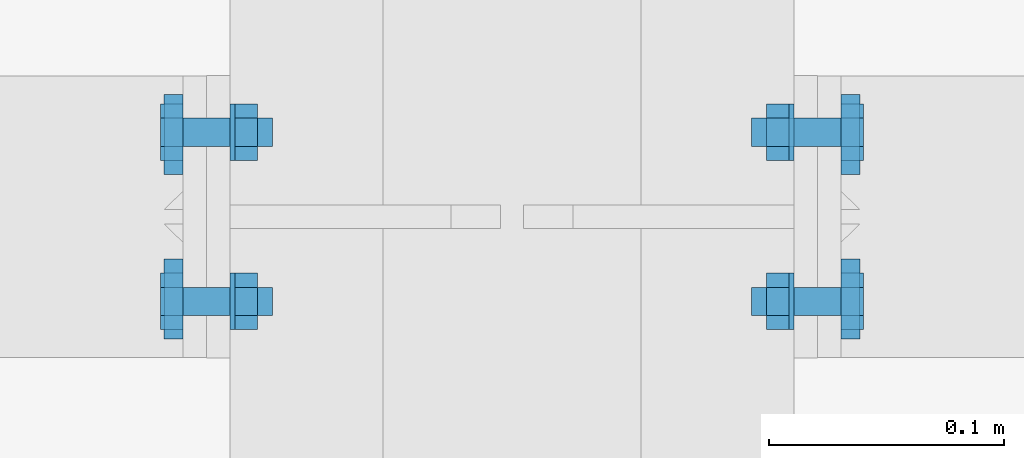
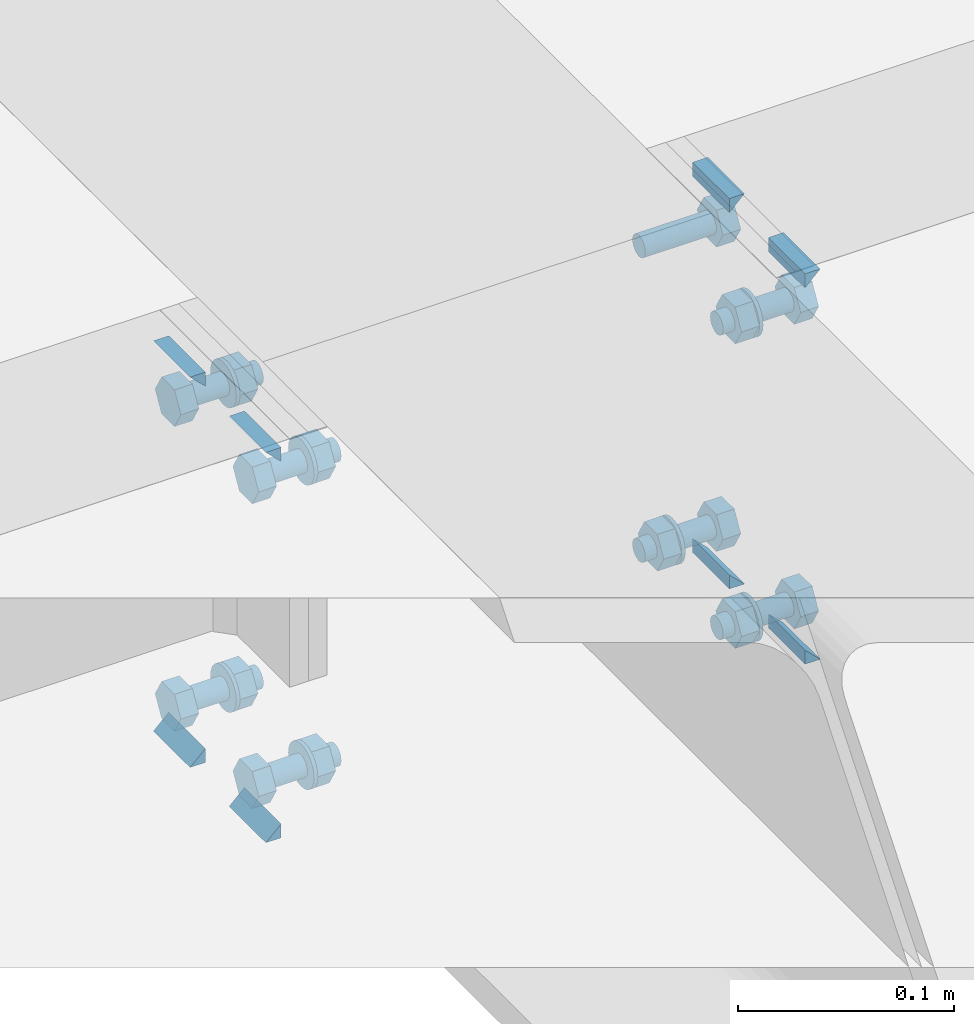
# One storey, part 34 of 66: 30 mechanical fasteners, 16 fasteners.
"""IFC4 building model written with IfcOpenShell, lengths in metres."""

from ifc_helpers import new_model, si_unit, frame, origin_with_axes, place, context, project, spatial, polyline, outline, extrude, type_object, element, save


model = new_model("IFC4")

# Units and contexts
model_context = context("Model", 3, precision=1e-05, world=origin_with_axes())
ifc_project = project(units=[si_unit("LENGTHUNIT", "METRE"), si_unit("AREAUNIT", "SQUARE_METRE"), si_unit("VOLUMEUNIT", "CUBIC_METRE"), si_unit("MASSUNIT", "GRAM", prefix="KILO"), si_unit("TIMEUNIT", "SECOND"), si_unit("PLANEANGLEUNIT", "RADIAN"), si_unit("SOLIDANGLEUNIT", "STERADIAN"), si_unit("THERMODYNAMICTEMPERATUREUNIT", "DEGREE_CELSIUS")], contexts=[model_context])

# Site, building, storey
placement_1 = place(None, origin_with_axes())
site = spatial("IfcSite", under=ifc_project, at=placement_1, Name="Italia", CompositionType="ELEMENT")
building = spatial("IfcBuilding", under=site, at=placement_1, Name="Uffici", CompositionType="ELEMENT")
storey_placement = place(None, frame((0.0, 0.0, 3.299999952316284), z_axis=(0.0, 0.0, 1.0), x_axis=(1.0, 0.0, 0.0)))
storey = spatial("IfcBuildingStorey", under=building, at=storey_placement, Name="Storey 1", CompositionType="ELEMENT", Elevation=3.299999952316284)

# Fasteners
fastener_type_1 = type_object("IfcFastenerType", Name="Collegamento -012_-011", PredefinedType="WELD")
placement_2 = place(placement_1, origin_with_axes())
fastener_1_placement = place(placement_2, origin_with_axes())
element("IfcFastener", 1, at=fastener_1_placement, inside=storey, type_object=fastener_type_1, Name="Collegamento -012_-011", context=model_context, shape_type="SweptSolid", body=[
    extrude(outline(polyline([(0.0, 0.0), (-0.00817347, 0.00792813), (0.0, 0.00792813), (0.0, 0.0)])), frame((3.06505, 3.57528, 3.28232), z_axis=(0.0, -1.0, 0.0), x_axis=(1.0, 0.0, 0.0)), (0.0, 0.0, 1.0), 0.0339999),
])
fastener_type_2 = type_object("IfcFastenerType", Name="Collegamento -012_-011", PredefinedType="WELD")
fastener_2_placement = place(placement_2, origin_with_axes())
element("IfcFastener", 2, at=fastener_2_placement, inside=storey, type_object=fastener_type_2, Name="Collegamento -012_-011", context=model_context, shape_type="SweptSolid", body=[
    extrude(outline(polyline([(0.0, 0.0), (0.00817347, -0.00792813), (0.0, -0.00792813), (0.0, 0.0)])), frame((3.06505, 3.54128, 3.07768), z_axis=(0.0, 1.0, 0.0), x_axis=(-1.0, 0.0, 0.0)), (0.0, 0.0, 1.0), 0.0339999),
])
fastener_type_3 = type_object("IfcFastenerType", Name="Collegamento -012_-011", PredefinedType="WELD")
fastener_3_placement = place(placement_2, origin_with_axes())
element("IfcFastener", 3, at=fastener_3_placement, inside=storey, type_object=fastener_type_3, Name="Collegamento -012_-011", context=model_context, shape_type="SweptSolid", body=[
    extrude(outline(polyline([(0.0, 0.0), (0.00817347, -0.00792813), (0.0, -0.00792813), (0.0, 0.0)])), frame((3.06505, 3.61138, 3.07768), z_axis=(0.0, 1.0, 0.0), x_axis=(-1.0, 0.0, 0.0)), (0.0, 0.0, 1.0), 0.0339999),
])
fastener_type_4 = type_object("IfcFastenerType", Name="Collegamento -012_-011", PredefinedType="WELD")
fastener_4_placement = place(placement_2, origin_with_axes())
element("IfcFastener", 4, at=fastener_4_placement, inside=storey, type_object=fastener_type_4, Name="Collegamento -012_-011", context=model_context, shape_type="SweptSolid", body=[
    extrude(outline(polyline([(0.0, 0.0), (-0.00817347, 0.00792813), (0.0, 0.00792813), (0.0, 0.0)])), frame((3.06505, 3.64538, 3.28232), z_axis=(0.0, -1.0, 0.0), x_axis=(1.0, 0.0, 0.0)), (0.0, 0.0, 1.0), 0.0339999),
])
fastener_type_5 = type_object("IfcFastenerType", Name="Collegamento -012_-011", PredefinedType="WELD")
fastener_5_placement = place(placement_2, origin_with_axes())
element("IfcFastener", 5, at=fastener_5_placement, inside=storey, type_object=fastener_type_5, Name="Collegamento -012_-011", context=model_context, shape_type="SweptSolid", body=[
    extrude(outline(polyline([(0.0, 0.0), (-0.00817347, 0.00792813), (0.0, 0.00792813), (0.0, 0.0)])), frame((3.06505, 3.57528, 3.28232), z_axis=(0.0, -1.0, 0.0), x_axis=(1.0, 0.0, 0.0)), (0.0, 0.0, 1.0), 0.0339999),
])
fastener_type_6 = type_object("IfcFastenerType", Name="Collegamento -012_-011", PredefinedType="WELD")
fastener_6_placement = place(placement_2, origin_with_axes())
element("IfcFastener", 6, at=fastener_6_placement, inside=storey, type_object=fastener_type_6, Name="Collegamento -012_-011", context=model_context, shape_type="SweptSolid", body=[
    extrude(outline(polyline([(0.0, 0.0), (0.00817347, -0.00792813), (0.0, -0.00792813), (0.0, 0.0)])), frame((3.06505, 3.54128, 3.07768), z_axis=(0.0, 1.0, 0.0), x_axis=(-1.0, 0.0, 0.0)), (0.0, 0.0, 1.0), 0.0339999),
])
fastener_type_7 = type_object("IfcFastenerType", Name="Collegamento -012_-011", PredefinedType="WELD")
fastener_7_placement = place(placement_2, origin_with_axes())
element("IfcFastener", 7, at=fastener_7_placement, inside=storey, type_object=fastener_type_7, Name="Collegamento -012_-011", context=model_context, shape_type="SweptSolid", body=[
    extrude(outline(polyline([(0.0, 0.0), (0.00817347, -0.00792813), (0.0, -0.00792813), (0.0, 0.0)])), frame((3.06505, 3.61138, 3.07768), z_axis=(0.0, 1.0, 0.0), x_axis=(-1.0, 0.0, 0.0)), (0.0, 0.0, 1.0), 0.0339999),
])
fastener_type_8 = type_object("IfcFastenerType", Name="Collegamento -012_-011", PredefinedType="WELD")
fastener_8_placement = place(placement_2, origin_with_axes())
element("IfcFastener", 8, at=fastener_8_placement, inside=storey, type_object=fastener_type_8, Name="Collegamento -012_-011", context=model_context, shape_type="SweptSolid", body=[
    extrude(outline(polyline([(0.0, 0.0), (-0.00817347, 0.00792813), (0.0, 0.00792813), (0.0, 0.0)])), frame((3.06505, 3.64538, 3.28232), z_axis=(0.0, -1.0, 0.0), x_axis=(1.0, 0.0, 0.0)), (0.0, 0.0, 1.0), 0.0339999),
])

# Mechanical fasteners
mechanical_fastener_type_1 = type_object("IfcMechanicalFastenerType", Name="Collegamento -012_-011", PredefinedType="BOLT")
mechanical_fastener_1_placement = place(placement_2, origin_with_axes())
element("IfcMechanicalFastener", 9, at=mechanical_fastener_1_placement, inside=storey, type_object=mechanical_fastener_type_1, Name="Collegamento -012_-011", NominalDiameter=0.0119999, context=model_context, shape_type="SweptSolid", body=[
    extrude(outline(polyline([(0.0, 0.0), (-0.0120001, 0.0), (-0.0180001, 0.0103924), (-0.0120001, 0.0207846), (0.0, 0.0207846), (0.00600004, 0.0103924), (0.0, 0.0)])), frame((3.065, 3.62333, 3.08361), z_axis=(-1.0, 0.0, 0.0), x_axis=(0.0, -1.0, 0.0)), (0.0, 0.0, 1.0), 0.00959992),
])
mechanical_fastener_type_2 = type_object("IfcMechanicalFastenerType", Name="Collegamento -012_-011", PredefinedType="BOLT")
mechanical_fastener_2_placement = place(placement_2, origin_with_axes())
element("IfcMechanicalFastener", 10, at=mechanical_fastener_2_placement, inside=storey, type_object=mechanical_fastener_type_2, Name="Collegamento -012_-011", NominalDiameter=0.012, context=model_context, shape_type="SweptSolid", body=[
    extrude(outline(polyline([(0.0, 0.0), (-0.000204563, -0.00155282), (-0.000803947, -0.00300002), (-0.00175738, -0.00424266), (-0.00300002, -0.00519609), (-0.00444722, -0.00579548), (-0.00600004, -0.00600004), (-0.00755286, -0.00579548), (-0.00900006, -0.00519609), (-0.0102427, -0.00424266), (-0.0111961, -0.00300002), (-0.0117955, -0.00155282), (-0.0120001, 0.0), (-0.0117955, 0.00155282), (-0.0111961, 0.00300002), (-0.0102427, 0.00424266), (-0.00900006, 0.00519609), (-0.00755286, 0.00579548), (-0.00600004, 0.00600004), (-0.00444722, 0.00579548), (-0.00300002, 0.00519609), (-0.00175738, 0.00424266), (-0.000803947, 0.00300002), (-0.000204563, 0.00155282), (0.0, 0.0)])), frame((3.103, 3.62333, 3.094), z_axis=(-1.0, 0.0, 0.0), x_axis=(0.0, -1.0, 0.0)), (0.0, 0.0, 1.0), 0.0379999),
])
mechanical_fastener_type_3 = type_object("IfcMechanicalFastenerType", Name="Collegamento -012_-011", PredefinedType="BOLT")
mechanical_fastener_3_placement = place(placement_2, origin_with_axes())
element("IfcMechanicalFastener", 11, at=mechanical_fastener_3_placement, inside=storey, type_object=mechanical_fastener_type_3, Name="Collegamento -012_-011", NominalDiameter=0.0119999, context=model_context, shape_type="SweptSolid", body=[
    extrude(outline(polyline([(0.0, 0.0), (-0.0120001, 0.0), (-0.0180001, 0.0103924), (-0.0120001, 0.0207846), (0.0, 0.0207846), (0.00600004, 0.0103924), (0.0, 0.0)])), frame((3.0966, 3.62333, 3.08361), z_axis=(-1.0, 0.0, 0.0), x_axis=(0.0, -1.0, 0.0)), (0.0, 0.0, 1.0), 0.00959992),
])
mechanical_fastener_type_4 = type_object("IfcMechanicalFastenerType", Name="Collegamento -012_-011", PredefinedType="BOLT")
mechanical_fastener_4_placement = place(placement_2, origin_with_axes())
element("IfcMechanicalFastener", 12, at=mechanical_fastener_4_placement, inside=storey, type_object=mechanical_fastener_type_4, Name="Collegamento -012_-011", NominalDiameter=0.024, context=model_context, shape_type="SweptSolid", body=[
    extrude(outline(polyline([(0.0, 0.0), (-0.000408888, -0.00310588), (-0.00160789, -0.00600004), (-0.00351477, -0.00848532), (-0.00600004, -0.0103922), (-0.00889421, -0.0115912), (-0.0120001, -0.0120001), (-0.015106, -0.0115912), (-0.0180001, -0.0103922), (-0.0204854, -0.00848532), (-0.0223923, -0.00600004), (-0.0235913, -0.00310588), (-0.0240002, 0.0), (-0.0235913, 0.00310588), (-0.0223923, 0.00600004), (-0.0204854, 0.00848532), (-0.0180001, 0.0103922), (-0.015106, 0.0115912), (-0.0120001, 0.0120001), (-0.00889421, 0.0115912), (-0.00600004, 0.0103922), (-0.00351477, 0.00848532), (-0.00160789, 0.00600004), (-0.000408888, 0.00310588), (0.0, 0.0)])), frame((3.087, 3.61733, 3.094), z_axis=(-1.0, 0.0, 0.0), x_axis=(0.0, -1.0, 0.0)), (0.0, 0.0, 1.0), 0.00200009),
])
mechanical_fastener_type_5 = type_object("IfcMechanicalFastenerType", Name="Collegamento -012_-011", PredefinedType="BOLT")
mechanical_fastener_5_placement = place(placement_2, origin_with_axes())
element("IfcMechanicalFastener", 13, at=mechanical_fastener_5_placement, inside=storey, type_object=mechanical_fastener_type_5, Name="Collegamento -012_-011", NominalDiameter=0.0119999, context=model_context, shape_type="SweptSolid", body=[
    extrude(outline(polyline([(0.0, 0.0), (-0.0120001, 0.0), (-0.0180001, 0.0103924), (-0.0120001, 0.0207846), (0.0, 0.0207846), (0.00600004, 0.0103924), (0.0, 0.0)])), frame((3.065, 3.55133, 3.08361), z_axis=(-1.0, 0.0, 0.0), x_axis=(0.0, -1.0, 0.0)), (0.0, 0.0, 1.0), 0.00959992),
])
mechanical_fastener_type_6 = type_object("IfcMechanicalFastenerType", Name="Collegamento -012_-011", PredefinedType="BOLT")
mechanical_fastener_6_placement = place(placement_2, origin_with_axes())
element("IfcMechanicalFastener", 14, at=mechanical_fastener_6_placement, inside=storey, type_object=mechanical_fastener_type_6, Name="Collegamento -012_-011", NominalDiameter=0.012, context=model_context, shape_type="SweptSolid", body=[
    extrude(outline(polyline([(0.0, 0.0), (-0.000204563, -0.00155282), (-0.000803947, -0.00300002), (-0.00175738, -0.00424266), (-0.00300002, -0.00519609), (-0.00444722, -0.00579548), (-0.00600004, -0.00600004), (-0.00755286, -0.00579548), (-0.00900006, -0.00519609), (-0.0102427, -0.00424266), (-0.0111961, -0.00300002), (-0.0117955, -0.00155282), (-0.0120001, 0.0), (-0.0117955, 0.00155282), (-0.0111961, 0.00300002), (-0.0102427, 0.00424266), (-0.00900006, 0.00519609), (-0.00755286, 0.00579548), (-0.00600004, 0.00600004), (-0.00444722, 0.00579548), (-0.00300002, 0.00519609), (-0.00175738, 0.00424266), (-0.000803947, 0.00300002), (-0.000204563, 0.00155282), (0.0, 0.0)])), frame((3.103, 3.55133, 3.094), z_axis=(-1.0, 0.0, 0.0), x_axis=(0.0, -1.0, 0.0)), (0.0, 0.0, 1.0), 0.0379999),
])
mechanical_fastener_type_7 = type_object("IfcMechanicalFastenerType", Name="Collegamento -012_-011", PredefinedType="BOLT")
mechanical_fastener_7_placement = place(placement_2, origin_with_axes())
element("IfcMechanicalFastener", 15, at=mechanical_fastener_7_placement, inside=storey, type_object=mechanical_fastener_type_7, Name="Collegamento -012_-011", NominalDiameter=0.0119999, context=model_context, shape_type="SweptSolid", body=[
    extrude(outline(polyline([(0.0, 0.0), (-0.0120001, 0.0), (-0.0180001, 0.0103924), (-0.0120001, 0.0207846), (0.0, 0.0207846), (0.00600004, 0.0103924), (0.0, 0.0)])), frame((3.0966, 3.55133, 3.08361), z_axis=(-1.0, 0.0, 0.0), x_axis=(0.0, -1.0, 0.0)), (0.0, 0.0, 1.0), 0.00959992),
])
mechanical_fastener_type_8 = type_object("IfcMechanicalFastenerType", Name="Collegamento -012_-011", PredefinedType="BOLT")
mechanical_fastener_8_placement = place(placement_2, origin_with_axes())
element("IfcMechanicalFastener", 16, at=mechanical_fastener_8_placement, inside=storey, type_object=mechanical_fastener_type_8, Name="Collegamento -012_-011", NominalDiameter=0.024, context=model_context, shape_type="SweptSolid", body=[
    extrude(outline(polyline([(0.0, 0.0), (-0.000408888, -0.00310588), (-0.00160789, -0.00600004), (-0.00351477, -0.00848532), (-0.00600004, -0.0103922), (-0.00889421, -0.0115912), (-0.0120001, -0.0120001), (-0.015106, -0.0115912), (-0.0180001, -0.0103922), (-0.0204854, -0.00848532), (-0.0223923, -0.00600004), (-0.0235913, -0.00310588), (-0.0240002, 0.0), (-0.0235913, 0.00310588), (-0.0223923, 0.00600004), (-0.0204854, 0.00848532), (-0.0180001, 0.0103922), (-0.015106, 0.0115912), (-0.0120001, 0.0120001), (-0.00889421, 0.0115912), (-0.00600004, 0.0103922), (-0.00351477, 0.00848532), (-0.00160789, 0.00600004), (-0.000408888, 0.00310588), (0.0, 0.0)])), frame((3.087, 3.54533, 3.094), z_axis=(-1.0, 0.0, 0.0), x_axis=(0.0, -1.0, 0.0)), (0.0, 0.0, 1.0), 0.00200009),
])
mechanical_fastener_type_9 = type_object("IfcMechanicalFastenerType", Name="Collegamento -012_-011", PredefinedType="BOLT")
mechanical_fastener_9_placement = place(placement_2, origin_with_axes())
element("IfcMechanicalFastener", 17, at=mechanical_fastener_9_placement, inside=storey, type_object=mechanical_fastener_type_9, Name="Collegamento -012_-011", NominalDiameter=0.0119999, context=model_context, shape_type="SweptSolid", body=[
    extrude(outline(polyline([(0.0, 0.0), (-0.0120001, 0.0), (-0.0180001, 0.0103922), (-0.0120001, 0.0207846), (0.0, 0.0207846), (0.00600004, 0.0103922), (0.0, 0.0)])), frame((3.065, 3.62333, 3.25561), z_axis=(-1.0, 0.0, 0.0), x_axis=(0.0, -1.0, 0.0)), (0.0, 0.0, 1.0), 0.00959992),
])
mechanical_fastener_type_10 = type_object("IfcMechanicalFastenerType", Name="Collegamento -012_-011", PredefinedType="BOLT")
mechanical_fastener_10_placement = place(placement_2, origin_with_axes())
element("IfcMechanicalFastener", 18, at=mechanical_fastener_10_placement, inside=storey, type_object=mechanical_fastener_type_10, Name="Collegamento -012_-011", NominalDiameter=0.012, context=model_context, shape_type="SweptSolid", body=[
    extrude(outline(polyline([(0.0, 0.0), (-0.000204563, -0.00155282), (-0.000803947, -0.00300002), (-0.00175738, -0.00424266), (-0.00300002, -0.00519609), (-0.00444722, -0.00579548), (-0.00600004, -0.00600004), (-0.00755286, -0.00579548), (-0.00900006, -0.00519609), (-0.0102427, -0.00424266), (-0.0111961, -0.00300002), (-0.0117955, -0.00155282), (-0.0120001, 0.0), (-0.0117955, 0.00155282), (-0.0111961, 0.00300002), (-0.0102427, 0.00424266), (-0.00900006, 0.00519609), (-0.00755286, 0.00579548), (-0.00600004, 0.00600004), (-0.00444722, 0.00579548), (-0.00300002, 0.00519609), (-0.00175738, 0.00424266), (-0.000803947, 0.00300002), (-0.000204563, 0.00155282), (0.0, 0.0)])), frame((3.103, 3.62333, 3.266), z_axis=(-1.0, 0.0, 0.0), x_axis=(0.0, -1.0, 0.0)), (0.0, 0.0, 1.0), 0.0379999),
])
mechanical_fastener_type_11 = type_object("IfcMechanicalFastenerType", Name="Collegamento -012_-011", PredefinedType="BOLT")
mechanical_fastener_11_placement = place(placement_2, origin_with_axes())
element("IfcMechanicalFastener", 19, at=mechanical_fastener_11_placement, inside=storey, type_object=mechanical_fastener_type_11, Name="Collegamento -012_-011", NominalDiameter=0.0119999, context=model_context, shape_type="SweptSolid", body=[
    extrude(outline(polyline([(0.0, 0.0), (-0.0120001, 0.0), (-0.0180001, 0.0103922), (-0.0120001, 0.0207846), (0.0, 0.0207846), (0.00600004, 0.0103922), (0.0, 0.0)])), frame((3.0966, 3.62333, 3.25561), z_axis=(-1.0, 0.0, 0.0), x_axis=(0.0, -1.0, 0.0)), (0.0, 0.0, 1.0), 0.00959992),
])
mechanical_fastener_type_12 = type_object("IfcMechanicalFastenerType", Name="Collegamento -012_-011", PredefinedType="BOLT")
mechanical_fastener_12_placement = place(placement_2, origin_with_axes())
element("IfcMechanicalFastener", 20, at=mechanical_fastener_12_placement, inside=storey, type_object=mechanical_fastener_type_12, Name="Collegamento -012_-011", NominalDiameter=0.024, context=model_context, shape_type="SweptSolid", body=[
    extrude(outline(polyline([(0.0, 0.0), (-0.000408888, -0.00310588), (-0.00160789, -0.00600004), (-0.00351477, -0.00848532), (-0.00600004, -0.0103922), (-0.00889421, -0.0115912), (-0.0120001, -0.0120001), (-0.015106, -0.0115912), (-0.0180001, -0.0103922), (-0.0204854, -0.00848532), (-0.0223923, -0.00600004), (-0.0235913, -0.00310588), (-0.0240002, 0.0), (-0.0235913, 0.00310588), (-0.0223923, 0.00600004), (-0.0204854, 0.00848532), (-0.0180001, 0.0103922), (-0.015106, 0.0115912), (-0.0120001, 0.0120001), (-0.00889421, 0.0115912), (-0.00600004, 0.0103922), (-0.00351477, 0.00848532), (-0.00160789, 0.00600004), (-0.000408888, 0.00310588), (0.0, 0.0)])), frame((3.087, 3.61733, 3.266), z_axis=(-1.0, 0.0, 0.0), x_axis=(0.0, -1.0, 0.0)), (0.0, 0.0, 1.0), 0.00200009),
])
mechanical_fastener_type_13 = type_object("IfcMechanicalFastenerType", Name="Collegamento -012_-011", PredefinedType="BOLT")
mechanical_fastener_13_placement = place(placement_2, origin_with_axes())
element("IfcMechanicalFastener", 21, at=mechanical_fastener_13_placement, inside=storey, type_object=mechanical_fastener_type_13, Name="Collegamento -012_-011", NominalDiameter=0.0119999, context=model_context, shape_type="SweptSolid", body=[
    extrude(outline(polyline([(0.0, 0.0), (-0.0120001, 0.0), (-0.0180001, 0.0103922), (-0.0120001, 0.0207846), (0.0, 0.0207846), (0.00600004, 0.0103922), (0.0, 0.0)])), frame((3.065, 3.55133, 3.25561), z_axis=(-1.0, 0.0, 0.0), x_axis=(0.0, -1.0, 0.0)), (0.0, 0.0, 1.0), 0.00959992),
])
mechanical_fastener_type_14 = type_object("IfcMechanicalFastenerType", Name="Collegamento -012_-011", PredefinedType="BOLT")
mechanical_fastener_14_placement = place(placement_2, origin_with_axes())
element("IfcMechanicalFastener", 22, at=mechanical_fastener_14_placement, inside=storey, type_object=mechanical_fastener_type_14, Name="Collegamento -012_-011", NominalDiameter=0.012, context=model_context, shape_type="SweptSolid", body=[
    extrude(outline(polyline([(0.0, 0.0), (-0.000204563, -0.00155282), (-0.000803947, -0.00300002), (-0.00175738, -0.00424266), (-0.00300002, -0.00519609), (-0.00444722, -0.00579548), (-0.00600004, -0.00600004), (-0.00755286, -0.00579548), (-0.00900006, -0.00519609), (-0.0102427, -0.00424266), (-0.0111961, -0.00300002), (-0.0117955, -0.00155282), (-0.0120001, 0.0), (-0.0117955, 0.00155282), (-0.0111961, 0.00300002), (-0.0102427, 0.00424266), (-0.00900006, 0.00519609), (-0.00755286, 0.00579548), (-0.00600004, 0.00600004), (-0.00444722, 0.00579548), (-0.00300002, 0.00519609), (-0.00175738, 0.00424266), (-0.000803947, 0.00300002), (-0.000204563, 0.00155282), (0.0, 0.0)])), frame((3.103, 3.55133, 3.266), z_axis=(-1.0, 0.0, 0.0), x_axis=(0.0, -1.0, 0.0)), (0.0, 0.0, 1.0), 0.0379999),
])
mechanical_fastener_type_15 = type_object("IfcMechanicalFastenerType", Name="Collegamento -012_-011", PredefinedType="BOLT")
mechanical_fastener_15_placement = place(placement_2, origin_with_axes())
element("IfcMechanicalFastener", 23, at=mechanical_fastener_15_placement, inside=storey, type_object=mechanical_fastener_type_15, Name="Collegamento -012_-011", NominalDiameter=0.0119999, context=model_context, shape_type="SweptSolid", body=[
    extrude(outline(polyline([(0.0, 0.0), (-0.0120001, 0.0), (-0.0180001, 0.0103922), (-0.0120001, 0.0207846), (0.0, 0.0207846), (0.00600004, 0.0103922), (0.0, 0.0)])), frame((3.0966, 3.55133, 3.25561), z_axis=(-1.0, 0.0, 0.0), x_axis=(0.0, -1.0, 0.0)), (0.0, 0.0, 1.0), 0.00959992),
])
mechanical_fastener_type_16 = type_object("IfcMechanicalFastenerType", Name="Collegamento -012_-011", PredefinedType="BOLT")
mechanical_fastener_16_placement = place(placement_2, origin_with_axes())
element("IfcMechanicalFastener", 24, at=mechanical_fastener_16_placement, inside=storey, type_object=mechanical_fastener_type_16, Name="Collegamento -012_-011", NominalDiameter=0.024, context=model_context, shape_type="SweptSolid", body=[
    extrude(outline(polyline([(0.0, 0.0), (-0.000408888, -0.00310588), (-0.00160789, -0.00600004), (-0.00351477, -0.00848532), (-0.00600004, -0.0103922), (-0.00889421, -0.0115912), (-0.0120001, -0.0120001), (-0.015106, -0.0115912), (-0.0180001, -0.0103922), (-0.0204854, -0.00848532), (-0.0223923, -0.00600004), (-0.0235913, -0.00310588), (-0.0240002, 0.0), (-0.0235913, 0.00310588), (-0.0223923, 0.00600004), (-0.0204854, 0.00848532), (-0.0180001, 0.0103922), (-0.015106, 0.0115912), (-0.0120001, 0.0120001), (-0.00889421, 0.0115912), (-0.00600004, 0.0103922), (-0.00351477, 0.00848532), (-0.00160789, 0.00600004), (-0.000408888, 0.00310588), (0.0, 0.0)])), frame((3.087, 3.54533, 3.266), z_axis=(-1.0, 0.0, 0.0), x_axis=(0.0, -1.0, 0.0)), (0.0, 0.0, 1.0), 0.00200009),
])

# Fasteners
fastener_type_9 = type_object("IfcFastenerType", Name="Collegamento -012_-013", PredefinedType="WELD")
fastener_9_placement = place(placement_2, origin_with_axes())
element("IfcFastener", 25, at=fastener_9_placement, inside=storey, type_object=fastener_type_9, Name="Collegamento -012_-013", context=model_context, shape_type="SweptSolid", body=[
    extrude(outline(polyline([(0.0, 0.0), (-0.00817347, 0.00792813), (0.0, 0.00792813), (0.0, 0.0)])), frame((3.34495, 3.54128, 3.28232), z_axis=(0.0, 1.0, 0.0), x_axis=(-1.0, 0.0, 0.0)), (0.0, 0.0, 1.0), 0.0339999),
])
fastener_type_10 = type_object("IfcFastenerType", Name="Collegamento -012_-013", PredefinedType="WELD")
fastener_10_placement = place(placement_2, origin_with_axes())
element("IfcFastener", 26, at=fastener_10_placement, inside=storey, type_object=fastener_type_10, Name="Collegamento -012_-013", context=model_context, shape_type="SweptSolid", body=[
    extrude(outline(polyline([(0.0, 0.0), (0.00817347, -0.00792813), (0.0, -0.00792813), (0.0, 0.0)])), frame((3.34495, 3.57528, 3.07768), z_axis=(0.0, -1.0, 0.0), x_axis=(1.0, 0.0, 0.0)), (0.0, 0.0, 1.0), 0.0339999),
])
fastener_type_11 = type_object("IfcFastenerType", Name="Collegamento -012_-013", PredefinedType="WELD")
fastener_11_placement = place(placement_2, origin_with_axes())
element("IfcFastener", 27, at=fastener_11_placement, inside=storey, type_object=fastener_type_11, Name="Collegamento -012_-013", context=model_context, shape_type="SweptSolid", body=[
    extrude(outline(polyline([(0.0, 0.0), (0.00817347, -0.00792813), (0.0, -0.00792813), (0.0, 0.0)])), frame((3.34495, 3.64538, 3.07768), z_axis=(0.0, -1.0, 0.0), x_axis=(1.0, 0.0, 0.0)), (0.0, 0.0, 1.0), 0.0339999),
])
fastener_type_12 = type_object("IfcFastenerType", Name="Collegamento -012_-013", PredefinedType="WELD")
fastener_12_placement = place(placement_2, origin_with_axes())
element("IfcFastener", 28, at=fastener_12_placement, inside=storey, type_object=fastener_type_12, Name="Collegamento -012_-013", context=model_context, shape_type="SweptSolid", body=[
    extrude(outline(polyline([(0.0, 0.0), (-0.00817347, 0.00792813), (0.0, 0.00792813), (0.0, 0.0)])), frame((3.34495, 3.61138, 3.28232), z_axis=(0.0, 1.0, 0.0), x_axis=(-1.0, 0.0, 0.0)), (0.0, 0.0, 1.0), 0.0339999),
])
fastener_type_13 = type_object("IfcFastenerType", Name="Collegamento -012_-013", PredefinedType="WELD")
fastener_13_placement = place(placement_2, origin_with_axes())
element("IfcFastener", 29, at=fastener_13_placement, inside=storey, type_object=fastener_type_13, Name="Collegamento -012_-013", context=model_context, shape_type="SweptSolid", body=[
    extrude(outline(polyline([(0.0, 0.0), (-0.00817347, 0.00792813), (0.0, 0.00792813), (0.0, 0.0)])), frame((3.34495, 3.54128, 3.28232), z_axis=(0.0, 1.0, 0.0), x_axis=(-1.0, 0.0, 0.0)), (0.0, 0.0, 1.0), 0.0339999),
])
fastener_type_14 = type_object("IfcFastenerType", Name="Collegamento -012_-013", PredefinedType="WELD")
fastener_14_placement = place(placement_2, origin_with_axes())
element("IfcFastener", 30, at=fastener_14_placement, inside=storey, type_object=fastener_type_14, Name="Collegamento -012_-013", context=model_context, shape_type="SweptSolid", body=[
    extrude(outline(polyline([(0.0, 0.0), (0.00817347, -0.00792813), (0.0, -0.00792813), (0.0, 0.0)])), frame((3.34495, 3.57528, 3.07768), z_axis=(0.0, -1.0, 0.0), x_axis=(1.0, 0.0, 0.0)), (0.0, 0.0, 1.0), 0.0339999),
])
fastener_type_15 = type_object("IfcFastenerType", Name="Collegamento -012_-013", PredefinedType="WELD")
fastener_15_placement = place(placement_2, origin_with_axes())
element("IfcFastener", 31, at=fastener_15_placement, inside=storey, type_object=fastener_type_15, Name="Collegamento -012_-013", context=model_context, shape_type="SweptSolid", body=[
    extrude(outline(polyline([(0.0, 0.0), (0.00817347, -0.00792813), (0.0, -0.00792813), (0.0, 0.0)])), frame((3.34495, 3.64538, 3.07768), z_axis=(0.0, -1.0, 0.0), x_axis=(1.0, 0.0, 0.0)), (0.0, 0.0, 1.0), 0.0339999),
])
fastener_type_16 = type_object("IfcFastenerType", Name="Collegamento -012_-013", PredefinedType="WELD")
fastener_16_placement = place(placement_2, origin_with_axes())
element("IfcFastener", 32, at=fastener_16_placement, inside=storey, type_object=fastener_type_16, Name="Collegamento -012_-013", context=model_context, shape_type="SweptSolid", body=[
    extrude(outline(polyline([(0.0, 0.0), (-0.00817347, 0.00792813), (0.0, 0.00792813), (0.0, 0.0)])), frame((3.34495, 3.61138, 3.28232), z_axis=(0.0, 1.0, 0.0), x_axis=(-1.0, 0.0, 0.0)), (0.0, 0.0, 1.0), 0.0339999),
])

# Mechanical fasteners
mechanical_fastener_type_17 = type_object("IfcMechanicalFastenerType", Name="Collegamento -012_-013", PredefinedType="BOLT")
mechanical_fastener_17_placement = place(placement_2, origin_with_axes())
element("IfcMechanicalFastener", 33, at=mechanical_fastener_17_placement, inside=storey, type_object=mechanical_fastener_type_17, Name="Collegamento -012_-013", NominalDiameter=0.0119999, context=model_context, shape_type="SweptSolid", body=[
    extrude(outline(polyline([(0.0, 0.0), (-0.0120001, 0.0), (-0.0180001, 0.0103924), (-0.0120001, 0.0207846), (0.0, 0.0207846), (0.00600004, 0.0103924), (0.0, 0.0)])), frame((3.345, 3.56333, 3.08361), z_axis=(1.0, 0.0, 0.0), x_axis=(0.0, 1.0, 0.0)), (0.0, 0.0, 1.0), 0.00959992),
])
mechanical_fastener_type_18 = type_object("IfcMechanicalFastenerType", Name="Collegamento -012_-013", PredefinedType="BOLT")
mechanical_fastener_18_placement = place(placement_2, origin_with_axes())
element("IfcMechanicalFastener", 34, at=mechanical_fastener_18_placement, inside=storey, type_object=mechanical_fastener_type_18, Name="Collegamento -012_-013", NominalDiameter=0.012, context=model_context, shape_type="SweptSolid", body=[
    extrude(outline(polyline([(0.0, 0.0), (-0.000204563, -0.00155282), (-0.000803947, -0.00300002), (-0.00175738, -0.00424266), (-0.00300002, -0.00519609), (-0.00444722, -0.00579548), (-0.00600004, -0.00600004), (-0.00755286, -0.00579548), (-0.00900006, -0.00519609), (-0.0102427, -0.00424266), (-0.0111961, -0.00300002), (-0.0117955, -0.00155282), (-0.0120001, 0.0), (-0.0117955, 0.00155282), (-0.0111961, 0.00300002), (-0.0102427, 0.00424266), (-0.00900006, 0.00519609), (-0.00755286, 0.00579548), (-0.00600004, 0.00600004), (-0.00444722, 0.00579548), (-0.00300002, 0.00519609), (-0.00175738, 0.00424266), (-0.000803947, 0.00300002), (-0.000204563, 0.00155282), (0.0, 0.0)])), frame((3.307, 3.56333, 3.094), z_axis=(1.0, 0.0, 0.0), x_axis=(0.0, 1.0, 0.0)), (0.0, 0.0, 1.0), 0.0379999),
])
mechanical_fastener_type_19 = type_object("IfcMechanicalFastenerType", Name="Collegamento -012_-013", PredefinedType="BOLT")
mechanical_fastener_19_placement = place(placement_2, origin_with_axes())
element("IfcMechanicalFastener", 35, at=mechanical_fastener_19_placement, inside=storey, type_object=mechanical_fastener_type_19, Name="Collegamento -012_-013", NominalDiameter=0.0119999, context=model_context, shape_type="SweptSolid", body=[
    extrude(outline(polyline([(0.0, 0.0), (-0.0120001, 0.0), (-0.0180001, 0.0103924), (-0.0120001, 0.0207846), (0.0, 0.0207846), (0.00600004, 0.0103924), (0.0, 0.0)])), frame((3.3134, 3.56333, 3.08361), z_axis=(1.0, 0.0, 0.0), x_axis=(0.0, 1.0, 0.0)), (0.0, 0.0, 1.0), 0.00959992),
])
mechanical_fastener_type_20 = type_object("IfcMechanicalFastenerType", Name="Collegamento -012_-013", PredefinedType="BOLT")
mechanical_fastener_20_placement = place(placement_2, origin_with_axes())
element("IfcMechanicalFastener", 36, at=mechanical_fastener_20_placement, inside=storey, type_object=mechanical_fastener_type_20, Name="Collegamento -012_-013", NominalDiameter=0.024, context=model_context, shape_type="SweptSolid", body=[
    extrude(outline(polyline([(0.0, 0.0), (-0.000408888, -0.00310588), (-0.00160789, -0.00600004), (-0.00351477, -0.00848532), (-0.00600004, -0.0103922), (-0.00889421, -0.0115912), (-0.0120001, -0.0120001), (-0.015106, -0.0115912), (-0.0180001, -0.0103922), (-0.0204854, -0.00848532), (-0.0223923, -0.00600004), (-0.0235913, -0.00310588), (-0.0240002, 0.0), (-0.0235913, 0.00310588), (-0.0223923, 0.00600004), (-0.0204854, 0.00848532), (-0.0180001, 0.0103922), (-0.015106, 0.0115912), (-0.0120001, 0.0120001), (-0.00889421, 0.0115912), (-0.00600004, 0.0103922), (-0.00351477, 0.00848532), (-0.00160789, 0.00600004), (-0.000408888, 0.00310588), (0.0, 0.0)])), frame((3.323, 3.56933, 3.094), z_axis=(1.0, 0.0, 0.0), x_axis=(0.0, 1.0, 0.0)), (0.0, 0.0, 1.0), 0.00200009),
])
mechanical_fastener_type_21 = type_object("IfcMechanicalFastenerType", Name="Collegamento -012_-013", PredefinedType="BOLT")
mechanical_fastener_21_placement = place(placement_2, origin_with_axes())
element("IfcMechanicalFastener", 37, at=mechanical_fastener_21_placement, inside=storey, type_object=mechanical_fastener_type_21, Name="Collegamento -012_-013", NominalDiameter=0.0119999, context=model_context, shape_type="SweptSolid", body=[
    extrude(outline(polyline([(0.0, 0.0), (-0.0120001, 0.0), (-0.0180001, 0.0103924), (-0.0120001, 0.0207846), (0.0, 0.0207846), (0.00600004, 0.0103924), (0.0, 0.0)])), frame((3.345, 3.63533, 3.08361), z_axis=(1.0, 0.0, 0.0), x_axis=(0.0, 1.0, 0.0)), (0.0, 0.0, 1.0), 0.00959992),
])
mechanical_fastener_type_22 = type_object("IfcMechanicalFastenerType", Name="Collegamento -012_-013", PredefinedType="BOLT")
mechanical_fastener_22_placement = place(placement_2, origin_with_axes())
element("IfcMechanicalFastener", 38, at=mechanical_fastener_22_placement, inside=storey, type_object=mechanical_fastener_type_22, Name="Collegamento -012_-013", NominalDiameter=0.012, context=model_context, shape_type="SweptSolid", body=[
    extrude(outline(polyline([(0.0, 0.0), (-0.000204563, -0.00155282), (-0.000803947, -0.00300002), (-0.00175738, -0.00424266), (-0.00300002, -0.00519609), (-0.00444722, -0.00579548), (-0.00600004, -0.00600004), (-0.00755286, -0.00579548), (-0.00900006, -0.00519609), (-0.0102427, -0.00424266), (-0.0111961, -0.00300002), (-0.0117955, -0.00155282), (-0.0120001, 0.0), (-0.0117955, 0.00155282), (-0.0111961, 0.00300002), (-0.0102427, 0.00424266), (-0.00900006, 0.00519609), (-0.00755286, 0.00579548), (-0.00600004, 0.00600004), (-0.00444722, 0.00579548), (-0.00300002, 0.00519609), (-0.00175738, 0.00424266), (-0.000803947, 0.00300002), (-0.000204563, 0.00155282), (0.0, 0.0)])), frame((3.307, 3.63533, 3.094), z_axis=(1.0, 0.0, 0.0), x_axis=(0.0, 1.0, 0.0)), (0.0, 0.0, 1.0), 0.0379999),
])
mechanical_fastener_type_23 = type_object("IfcMechanicalFastenerType", Name="Collegamento -012_-013", PredefinedType="BOLT")
mechanical_fastener_23_placement = place(placement_2, origin_with_axes())
element("IfcMechanicalFastener", 39, at=mechanical_fastener_23_placement, inside=storey, type_object=mechanical_fastener_type_23, Name="Collegamento -012_-013", NominalDiameter=0.0119999, context=model_context, shape_type="SweptSolid", body=[
    extrude(outline(polyline([(0.0, 0.0), (-0.0120001, 0.0), (-0.0180001, 0.0103924), (-0.0120001, 0.0207846), (0.0, 0.0207846), (0.00600004, 0.0103924), (0.0, 0.0)])), frame((3.3134, 3.63533, 3.08361), z_axis=(1.0, 0.0, 0.0), x_axis=(0.0, 1.0, 0.0)), (0.0, 0.0, 1.0), 0.00959992),
])
mechanical_fastener_type_24 = type_object("IfcMechanicalFastenerType", Name="Collegamento -012_-013", PredefinedType="BOLT")
mechanical_fastener_24_placement = place(placement_2, origin_with_axes())
element("IfcMechanicalFastener", 40, at=mechanical_fastener_24_placement, inside=storey, type_object=mechanical_fastener_type_24, Name="Collegamento -012_-013", NominalDiameter=0.024, context=model_context, shape_type="SweptSolid", body=[
    extrude(outline(polyline([(0.0, 0.0), (-0.000408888, -0.00310588), (-0.00160789, -0.00600004), (-0.00351477, -0.00848532), (-0.00600004, -0.0103922), (-0.00889421, -0.0115912), (-0.0120001, -0.0120001), (-0.015106, -0.0115912), (-0.0180001, -0.0103922), (-0.0204854, -0.00848532), (-0.0223923, -0.00600004), (-0.0235913, -0.00310588), (-0.0240002, 0.0), (-0.0235913, 0.00310588), (-0.0223923, 0.00600004), (-0.0204854, 0.00848532), (-0.0180001, 0.0103922), (-0.015106, 0.0115912), (-0.0120001, 0.0120001), (-0.00889421, 0.0115912), (-0.00600004, 0.0103922), (-0.00351477, 0.00848532), (-0.00160789, 0.00600004), (-0.000408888, 0.00310588), (0.0, 0.0)])), frame((3.323, 3.64133, 3.094), z_axis=(1.0, 0.0, 0.0), x_axis=(0.0, 1.0, 0.0)), (0.0, 0.0, 1.0), 0.00200009),
])
mechanical_fastener_type_25 = type_object("IfcMechanicalFastenerType", Name="Collegamento -012_-013", PredefinedType="BOLT")
mechanical_fastener_25_placement = place(placement_2, origin_with_axes())
element("IfcMechanicalFastener", 41, at=mechanical_fastener_25_placement, inside=storey, type_object=mechanical_fastener_type_25, Name="Collegamento -012_-013", NominalDiameter=0.0119999, context=model_context, shape_type="SweptSolid", body=[
    extrude(outline(polyline([(0.0, 0.0), (-0.0120001, 0.0), (-0.0180001, 0.0103922), (-0.0120001, 0.0207846), (0.0, 0.0207846), (0.00600004, 0.0103922), (0.0, 0.0)])), frame((3.345, 3.56333, 3.25561), z_axis=(1.0, 0.0, 0.0), x_axis=(0.0, 1.0, 0.0)), (0.0, 0.0, 1.0), 0.00959992),
])
mechanical_fastener_type_26 = type_object("IfcMechanicalFastenerType", Name="Collegamento -012_-013", PredefinedType="BOLT")
mechanical_fastener_26_placement = place(placement_2, origin_with_axes())
element("IfcMechanicalFastener", 42, at=mechanical_fastener_26_placement, inside=storey, type_object=mechanical_fastener_type_26, Name="Collegamento -012_-013", NominalDiameter=0.012, context=model_context, shape_type="SweptSolid", body=[
    extrude(outline(polyline([(0.0, 0.0), (-0.000204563, -0.00155282), (-0.000803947, -0.00300002), (-0.00175738, -0.00424266), (-0.00300002, -0.00519609), (-0.00444722, -0.00579548), (-0.00600004, -0.00600004), (-0.00755286, -0.00579548), (-0.00900006, -0.00519609), (-0.0102427, -0.00424266), (-0.0111961, -0.00300002), (-0.0117955, -0.00155282), (-0.0120001, 0.0), (-0.0117955, 0.00155282), (-0.0111961, 0.00300002), (-0.0102427, 0.00424266), (-0.00900006, 0.00519609), (-0.00755286, 0.00579548), (-0.00600004, 0.00600004), (-0.00444722, 0.00579548), (-0.00300002, 0.00519609), (-0.00175738, 0.00424266), (-0.000803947, 0.00300002), (-0.000204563, 0.00155282), (0.0, 0.0)])), frame((3.307, 3.56333, 3.266), z_axis=(1.0, 0.0, 0.0), x_axis=(0.0, 1.0, 0.0)), (0.0, 0.0, 1.0), 0.0379999),
])
mechanical_fastener_type_27 = type_object("IfcMechanicalFastenerType", Name="Collegamento -012_-013", PredefinedType="BOLT")
mechanical_fastener_27_placement = place(placement_2, origin_with_axes())
element("IfcMechanicalFastener", 43, at=mechanical_fastener_27_placement, inside=storey, type_object=mechanical_fastener_type_27, Name="Collegamento -012_-013", NominalDiameter=0.0119999, context=model_context, shape_type="SweptSolid", body=[
    extrude(outline(polyline([(0.0, 0.0), (-0.0120001, 0.0), (-0.0180001, 0.0103922), (-0.0120001, 0.0207846), (0.0, 0.0207846), (0.00600004, 0.0103922), (0.0, 0.0)])), frame((3.3134, 3.56333, 3.25561), z_axis=(1.0, 0.0, 0.0), x_axis=(0.0, 1.0, 0.0)), (0.0, 0.0, 1.0), 0.00959992),
])
mechanical_fastener_type_28 = type_object("IfcMechanicalFastenerType", Name="Collegamento -012_-013", PredefinedType="BOLT")
mechanical_fastener_28_placement = place(placement_2, origin_with_axes())
element("IfcMechanicalFastener", 44, at=mechanical_fastener_28_placement, inside=storey, type_object=mechanical_fastener_type_28, Name="Collegamento -012_-013", NominalDiameter=0.024, context=model_context, shape_type="SweptSolid", body=[
    extrude(outline(polyline([(0.0, 0.0), (-0.000408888, -0.00310588), (-0.00160789, -0.00600004), (-0.00351477, -0.00848532), (-0.00600004, -0.0103922), (-0.00889421, -0.0115912), (-0.0120001, -0.0120001), (-0.015106, -0.0115912), (-0.0180001, -0.0103922), (-0.0204854, -0.00848532), (-0.0223923, -0.00600004), (-0.0235913, -0.00310588), (-0.0240002, 0.0), (-0.0235913, 0.00310588), (-0.0223923, 0.00600004), (-0.0204854, 0.00848532), (-0.0180001, 0.0103922), (-0.015106, 0.0115912), (-0.0120001, 0.0120001), (-0.00889421, 0.0115912), (-0.00600004, 0.0103922), (-0.00351477, 0.00848532), (-0.00160789, 0.00600004), (-0.000408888, 0.00310588), (0.0, 0.0)])), frame((3.323, 3.56933, 3.266), z_axis=(1.0, 0.0, 0.0), x_axis=(0.0, 1.0, 0.0)), (0.0, 0.0, 1.0), 0.00200009),
])
mechanical_fastener_type_29 = type_object("IfcMechanicalFastenerType", Name="Collegamento -012_-013", PredefinedType="BOLT")
mechanical_fastener_29_placement = place(placement_2, origin_with_axes())
element("IfcMechanicalFastener", 45, at=mechanical_fastener_29_placement, inside=storey, type_object=mechanical_fastener_type_29, Name="Collegamento -012_-013", NominalDiameter=0.0119999, context=model_context, shape_type="SweptSolid", body=[
    extrude(outline(polyline([(0.0, 0.0), (-0.0120001, 0.0), (-0.0180001, 0.0103922), (-0.0120001, 0.0207846), (0.0, 0.0207846), (0.00600004, 0.0103922), (0.0, 0.0)])), frame((3.345, 3.63533, 3.25561), z_axis=(1.0, 0.0, 0.0), x_axis=(0.0, 1.0, 0.0)), (0.0, 0.0, 1.0), 0.00959992),
])
mechanical_fastener_type_30 = type_object("IfcMechanicalFastenerType", Name="Collegamento -012_-013", PredefinedType="BOLT")
mechanical_fastener_30_placement = place(placement_2, origin_with_axes())
element("IfcMechanicalFastener", 46, at=mechanical_fastener_30_placement, inside=storey, type_object=mechanical_fastener_type_30, Name="Collegamento -012_-013", NominalDiameter=0.012, context=model_context, shape_type="SweptSolid", body=[
    extrude(outline(polyline([(0.0, 0.0), (-0.000204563, -0.00155282), (-0.000803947, -0.00300002), (-0.00175738, -0.00424266), (-0.00300002, -0.00519609), (-0.00444722, -0.00579548), (-0.00600004, -0.00600004), (-0.00755286, -0.00579548), (-0.00900006, -0.00519609), (-0.0102427, -0.00424266), (-0.0111961, -0.00300002), (-0.0117955, -0.00155282), (-0.0120001, 0.0), (-0.0117955, 0.00155282), (-0.0111961, 0.00300002), (-0.0102427, 0.00424266), (-0.00900006, 0.00519609), (-0.00755286, 0.00579548), (-0.00600004, 0.00600004), (-0.00444722, 0.00579548), (-0.00300002, 0.00519609), (-0.00175738, 0.00424266), (-0.000803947, 0.00300002), (-0.000204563, 0.00155282), (0.0, 0.0)])), frame((3.307, 3.63533, 3.266), z_axis=(1.0, 0.0, 0.0), x_axis=(0.0, 1.0, 0.0)), (0.0, 0.0, 1.0), 0.0379999),
])

save(model, "model.ifc")
